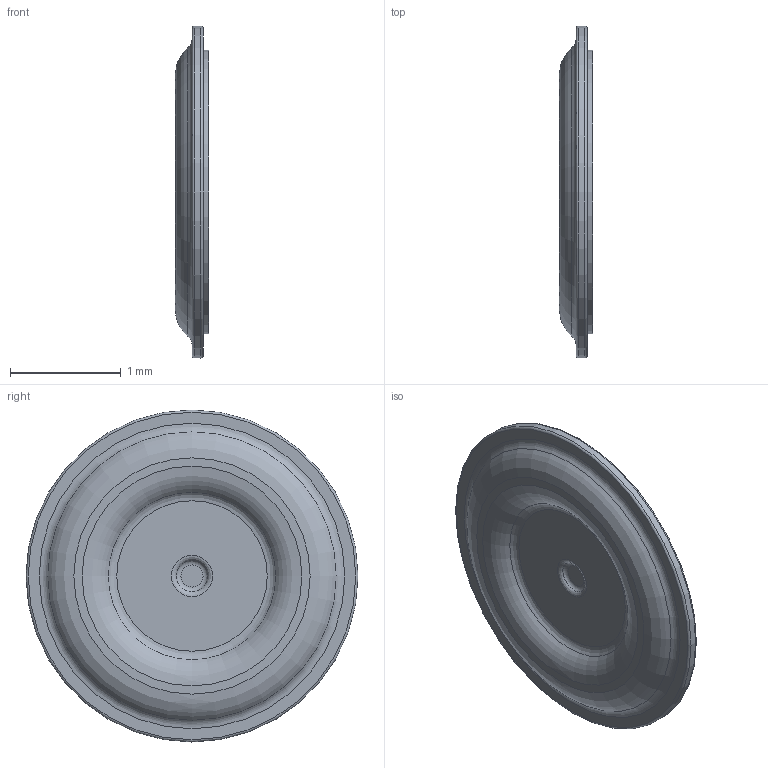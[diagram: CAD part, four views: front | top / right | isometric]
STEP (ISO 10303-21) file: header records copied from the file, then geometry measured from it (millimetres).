
FILE_DESCRIPTION(/* description */ ('STEP AP242 Edition 2','CAx-IF Rec.Pracs.---Representation and Presentation of Product Manufacturing Information (PMI)---4.0---2014-10-13','CAx-IF Rec.Pracs.---3D Tessellated Geometry---0.4---2014-09-14','2;1','CAx-IF Rec.Pracs.---User Defined Attributes---1.5---2016-08-15'),/* implementation_level */ '2;1');
FILE_NAME(/* name */ 'Assembly 1 - 9V_Battery',/* time_stamp */ '2026-04-02T09:55:06Z',/* author */ (''),/* organization */ (''),/* preprocessor_version */ 'ST-DEVELOPER v20',/* originating_system */ 'ONSHAPE BY PTC INC, 1.212',/* authorisation */ ' ');
FILE_SCHEMA (('AP242_MANAGED_MODEL_BASED_3D_ENGINEERING_MIM_LF { 1 0 10303 442 3 1 4 }'));
Length unit declared in the file: metre
Products named in the file (1): 9V_Battery
Bounding box: 0.3 x 3 x 3 mm (x, y, z)
Volume: 1.4 mm3; surface area: 15.9 mm2
Topology: 1 solids, 1 shells, 16 faces, 26 edges, 16 vertices
Faces by surface type: torus 8, plane 6, cylinder 2
Full cylindrical faces by diameter (mm): 2.56 x1, 3 x1
Entity records: 336 total; most frequent: DIRECTION 64, CARTESIAN_POINT 47, AXIS2_PLACEMENT_3D 32, ORIENTED_EDGE 30, EDGE_LOOP 30, FACE_BOUND 30, ADVANCED_FACE 16, EDGE_CURVE 15
